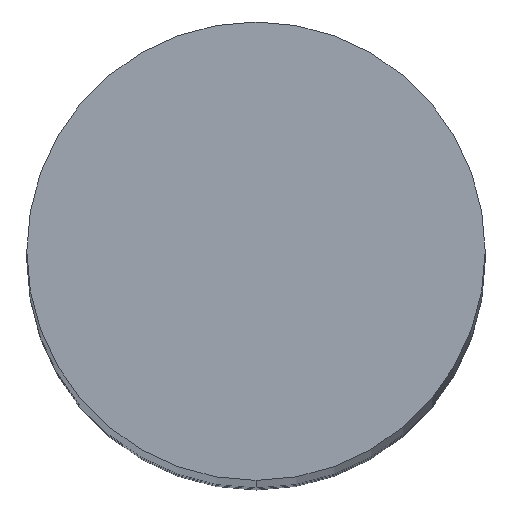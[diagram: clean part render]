
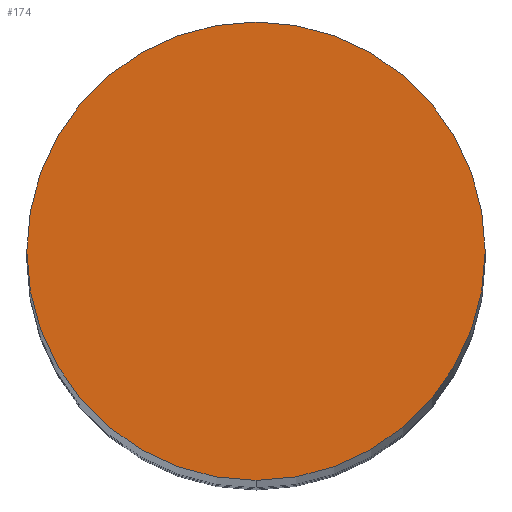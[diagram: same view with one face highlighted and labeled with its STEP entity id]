
A CAD part, top view. The second image highlights one B-rep face of the part: STEP entity #174.
In plain terms, the highlighted planar face has unit normal (0, 0, 1).
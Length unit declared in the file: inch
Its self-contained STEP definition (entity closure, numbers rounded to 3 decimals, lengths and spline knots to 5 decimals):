
#127=CARTESIAN_POINT('',(0.0,-0.0625,1.5));
#128=VERTEX_POINT('',#127);
#136=CARTESIAN_POINT('',(0.0,0.0625,1.5));
#137=VERTEX_POINT('',#136);
#144=CARTESIAN_POINT('',(0.0,0.0,1.5));
#145=DIRECTION('',(0.0,-0.0,-1.0));
#146=DIRECTION('',(0.0,1.0,-0.0));
#147=AXIS2_PLACEMENT_3D('',#144,#145,#146);
#148=CIRCLE('',#147,0.0625);
#149=EDGE_CURVE('no 1299',#137,#128,#148,.T.);
#159=CARTESIAN_POINT('',(0.0,0.0,1.5));
#160=DIRECTION('',(0.0,-0.0,-1.0));
#161=DIRECTION('',(0.0,1.0,-0.0));
#162=AXIS2_PLACEMENT_3D('',#159,#160,#161);
#163=CIRCLE('',#162,0.0625);
#164=EDGE_CURVE('no 1303',#128,#137,#163,.T.);
#165=ORIENTED_EDGE('',*,*,#164,.F.);
#166=ORIENTED_EDGE('',*,*,#149,.F.);
#167=EDGE_LOOP('',(#165,#166));
#168=FACE_OUTER_BOUND('',#167,.T.);
#169=CARTESIAN_POINT('',(0.0625,0.0,1.5));
#170=DIRECTION('',(0.0,0.0,1.0));
#171=DIRECTION('',(0.0,-1.0,0.0));
#172=AXIS2_PLACEMENT_3D('',#169,#170,#171);
#173=PLANE('',#172);
#174=ADVANCED_FACE('no 1392',(#168),#173,.T.);
